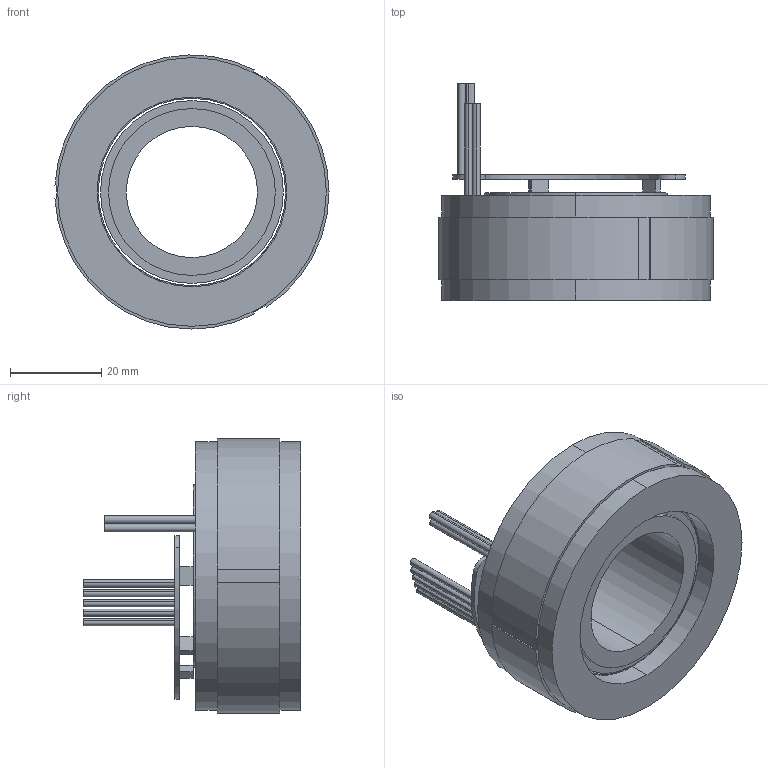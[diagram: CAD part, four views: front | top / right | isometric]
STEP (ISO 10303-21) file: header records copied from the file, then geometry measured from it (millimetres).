
FILE_DESCRIPTION (( 'STEP AP203' ), '1' );
FILE_NAME ('50LW01B总体3D模型图.STEP', '2024-12-17T04:55:32', ( '長安系统' ), ( '長安系统 稳定兼容' ), 'SwSTEP 2.0', 'SolidWorks 2017', '' );
FILE_SCHEMA (( 'CONFIG_CONTROL_DESIGN' ));
Length unit declared in the file: millimetre
Products named in the file (4): 萇繚啣; 50LW01B軞极3D耀倰芞; 隅赽; 蛌赽
Assembly tree (3 placements, depth 2):
  50LW01B軞极3D耀倰芞
    隅赽
    蛌赽
    萇繚啣
Bounding box: 59.96 x 47.5 x 59.99 mm (x, y, z)
Volume: 46428.4 mm3; surface area: 17981.1 mm2
Topology: 3 solids, 3 shells, 86 faces, 192 edges, 128 vertices
Faces by surface type: cylinder 46, plane 40
Entity records: 2850 total; most frequent: DIRECTION 468, CARTESIAN_POINT 412, ORIENTED_EDGE 384, EDGE_CURVE 192, AXIS2_PLACEMENT_3D 184, VERTEX_POINT 128, EDGE_LOOP 106, VECTOR 100
